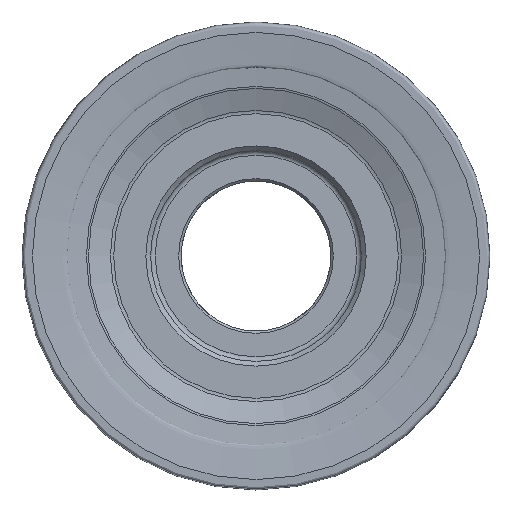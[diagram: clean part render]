
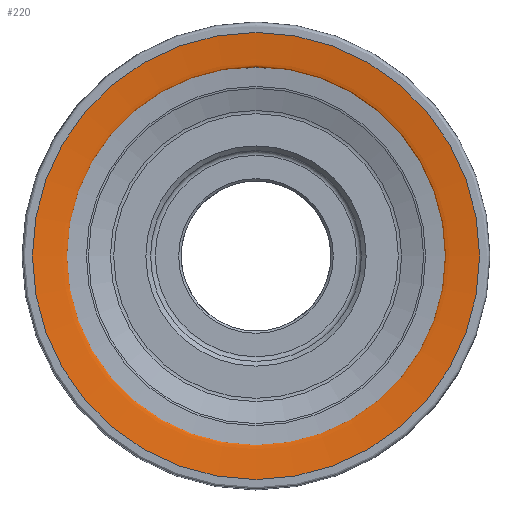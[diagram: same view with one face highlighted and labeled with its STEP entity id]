
A CAD part, left-side view. The second image highlights one B-rep face of the part: STEP entity #220.
In plain terms, the highlighted face is a revolution surface.
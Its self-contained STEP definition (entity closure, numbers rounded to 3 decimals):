
#76=SURFACE_OF_REVOLUTION('',#254,#78);
#78=AXIS1_PLACEMENT('',#1602,#1109);
#220=ADVANCED_FACE('',(#353,#354),#76,.T.);
#254=B_SPLINE_CURVE_WITH_KNOTS('',3,(#1576,#1577,#1578,#1579,#1580,#1581,
#1582,#1583,#1584,#1585,#1586,#1587,#1588,#1589,#1590,#1591,#1592,#1593,
#1594,#1595,#1596,#1597,#1598,#1599,#1600,#1601),.UNSPECIFIED.,.F.,.F.,
(4,2,2,2,2,2,2,2,2,2,2,2,4),(0.,0.25,0.281,0.297,
0.313,0.375,0.5,0.75,
0.875,0.906,0.938,0.969,1.),
 .UNSPECIFIED.);
#353=FACE_BOUND('',#425,.T.);
#354=FACE_BOUND('',#426,.T.);
#425=EDGE_LOOP('',(#607));
#426=EDGE_LOOP('',(#608));
#607=ORIENTED_EDGE('',*,*,#766,.T.);
#608=ORIENTED_EDGE('',*,*,#765,.T.);
#674=VERTEX_POINT('',#1544);
#675=VERTEX_POINT('',#1546);
#765=EDGE_CURVE('',#674,#674,#804,.T.);
#766=EDGE_CURVE('',#675,#675,#805,.T.);
#804=CIRCLE('',#894,47.719);
#805=CIRCLE('',#895,42.766);
#894=AXIS2_PLACEMENT_3D('',#1543,#1104,#1105);
#895=AXIS2_PLACEMENT_3D('',#1545,#1106,#1107);
#1104=DIRECTION('',(-1.,0.,0.));
#1105=DIRECTION('',(0.,0.,1.));
#1106=DIRECTION('',(1.,0.,0.));
#1107=DIRECTION('',(0.,0.,1.));
#1109=DIRECTION('',(-1.,0.,0.));
#1543=CARTESIAN_POINT('',(0.149,0.,0.));
#1544=CARTESIAN_POINT('',(0.149,0.,47.719));
#1545=CARTESIAN_POINT('',(17.508,0.,0.));
#1546=CARTESIAN_POINT('',(17.508,0.,42.766));
#1576=CARTESIAN_POINT('',(0.149,-47.719,0.));
#1577=CARTESIAN_POINT('',(0.388,-45.637,0.));
#1578=CARTESIAN_POINT('',(0.634,-43.555,0.));
#1579=CARTESIAN_POINT('',(0.907,-41.213,0.));
#1580=CARTESIAN_POINT('',(0.902,-40.945,0.));
#1581=CARTESIAN_POINT('',(1.025,-40.571,0.));
#1582=CARTESIAN_POINT('',(1.101,-40.45,0.));
#1583=CARTESIAN_POINT('',(1.315,-40.29,0.));
#1584=CARTESIAN_POINT('',(1.456,-40.274,0.));
#1585=CARTESIAN_POINT('',(2.128,-40.283,0.));
#1586=CARTESIAN_POINT('',(2.667,-40.29,0.));
#1587=CARTESIAN_POINT('',(4.281,-40.314,0.));
#1588=CARTESIAN_POINT('',(5.357,-40.331,0.));
#1589=CARTESIAN_POINT('',(8.586,-40.389,0.));
#1590=CARTESIAN_POINT('',(10.738,-40.436,0.));
#1591=CARTESIAN_POINT('',(13.967,-40.52,0.));
#1592=CARTESIAN_POINT('',(15.043,-40.55,0.));
#1593=CARTESIAN_POINT('',(16.388,-40.591,0.));
#1594=CARTESIAN_POINT('',(16.661,-40.561,0.));
#1595=CARTESIAN_POINT('',(17.185,-40.689,0.));
#1596=CARTESIAN_POINT('',(17.411,-40.898,0.));
#1597=CARTESIAN_POINT('',(17.569,-41.417,0.));
#1598=CARTESIAN_POINT('',(17.521,-41.693,0.));
#1599=CARTESIAN_POINT('',(17.516,-42.23,0.));
#1600=CARTESIAN_POINT('',(17.521,-42.498,0.));
#1601=CARTESIAN_POINT('',(17.508,-42.766,0.));
#1602=CARTESIAN_POINT('',(0.,0.,0.));
